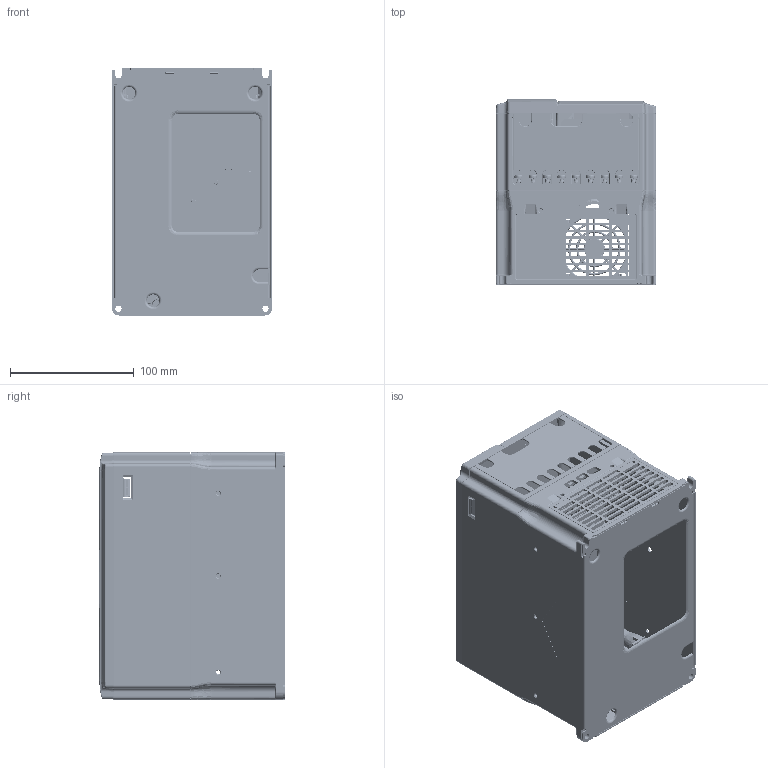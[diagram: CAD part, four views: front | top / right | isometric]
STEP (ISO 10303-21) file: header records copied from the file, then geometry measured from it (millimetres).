
FILE_DESCRIPTION((''),'2;1');
FILE_NAME('000-MVT222ZGB_ASM_369_ASM_11_ASM','2021-12-10T',('h2718'),(''),'CREO PARAMETRIC BY PTC INC, 2015290','CREO PARAMETRIC BY PTC INC, 2015290','');
FILE_SCHEMA(('AP203_CONFIGURATION_CONTROLLED_3D_DESIGN_OF_MECHANICAL_PARTS_AND_ASSEMBLIES_MIM_LF { 1 0 10303 403 2 1 2 }'));
Products named in the file (34): 20210458-LJ_201_1_7_1; 20210458-LJ_201_1_7_2; 20210458-LJ_201_1_7_3; 20210458-LJ_201_1_7_ASM; 20210458-LJ_201_ASM_6_ASM; 20210458-LJ_ASM_21_ASM_4_ASM; 20210446-LJ_25_3; 20210446-LJ_ASM_11_ASM_3_ASM; 20210449-LJ_10_4; 20210438-LJ_6_2; 20210450-LJ_9_5; 20210459-LJ_31_5; 520-KZB-20211209; 520-AJZJ-01-20211209; 20212496; 20441162; 001-520-ZUJIAN_ASM; 001-MVT222ZGB-SUJIAO_ASM_55_ASM_ASM; 20130706-LJ_57_6; MVT552ZGB-BANJIN_ASM_35_ASM_3_ASM; MD500-T2-DZ__V1_3_5_7_1; MD500-T2-DZ__V1_3_2_1_1; MD500-T2-DZ__V1_3_3_1_1; MD500-T2-DZ__V1_3_1_1_1; MD500-T2-DZ__V1_3_6_1_1; LUODING_ASM_1_ASM_1_ASM; MD500-T2-DZ__V1_3_ASM_18_ASM_2_ASM; MD500-T2-DZ_V1_3_ASM_4_ASM_2_ASM; MVT552ZGB-QUDONG_ASM_58_ASM_2_ASM; MVT552ZGB-PCB_ASM_19_ASM_2_ASM; MVT-MIANMO_ASM_4_ASM_2_ASM; MVT552ZGB-BIAOQIAN_ASM_13_ASM_4_ASM; 02021416_KZB-20201028_ASM_5_ASM; 000-MVT222ZGB_ASM_369_ASM_11_ASM
Assembly tree (57 placements, depth 7):
  000-MVT222ZGB_ASM_369_ASM_11_ASM
    001-MVT222ZGB-SUJIAO_ASM_55_ASM_ASM
      20210458-LJ_ASM_21_ASM_4_ASM
        20210458-LJ_201_ASM_6_ASM
          20210458-LJ_201_1_7_ASM
            20210458-LJ_201_1_7_1
            20210458-LJ_201_1_7_2
            20210458-LJ_201_1_7_3
      20210446-LJ_ASM_11_ASM_3_ASM
        20210446-LJ_25_3
      20210449-LJ_10_4
      20210438-LJ_6_2
      20210450-LJ_9_5
      20210459-LJ_31_5
      001-520-ZUJIAN_ASM
        520-KZB-20211209
        520-AJZJ-01-20211209
        20212496
        20441162
    MVT552ZGB-BANJIN_ASM_35_ASM_3_ASM
      20130706-LJ_57_6
    MVT552ZGB-PCB_ASM_19_ASM_2_ASM
      MVT552ZGB-QUDONG_ASM_58_ASM_2_ASM
        MD500-T2-DZ_V1_3_ASM_4_ASM_2_ASM
          MD500-T2-DZ__V1_3_ASM_18_ASM_2_ASM
            MD500-T2-DZ__V1_3_5_7_1
            MD500-T2-DZ__V1_3_2_1_1  x9
            MD500-T2-DZ__V1_3_3_1_1  x9
            LUODING_ASM_1_ASM_1_ASM  x9
              MD500-T2-DZ__V1_3_1_1_1
              MD500-T2-DZ__V1_3_6_1_1
    MVT-MIANMO_ASM_4_ASM_2_ASM
    MVT552ZGB-BIAOQIAN_ASM_13_ASM_4_ASM
    02021416_KZB-20201028_ASM_5_ASM
Bounding box: 130 x 150 x 200 mm (x, y, z)
Volume: 347308.8 mm3; surface area: 441692.2 mm2
Topology: 80 solids, 98 shells, 13463 faces, 37633 edges, 24343 vertices
Faces by surface type: plane 7824, cylinder 3556, bspline 916, cone 577, torus 416, extrusion 99, sphere 65, revolution 10
Entity records: 594653 total; most frequent: CARTESIAN_POINT 197591, ORIENTED_EDGE 66174, DIRECTION 60266, EDGE_CURVE 33109, VECTOR 22880, LINE 22781, VERTEX_POINT 21352, AXIS2_PLACEMENT_3D 18637
